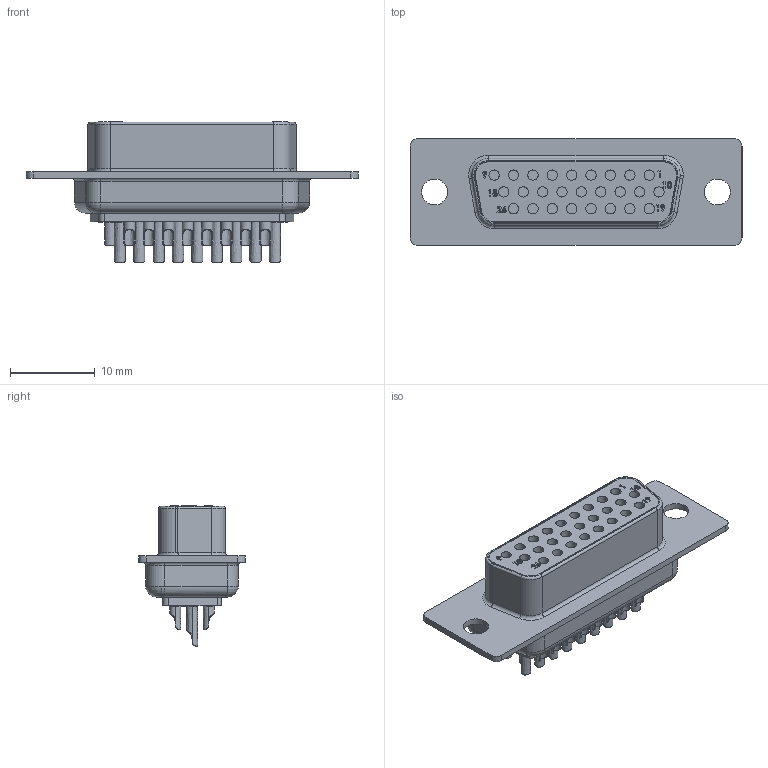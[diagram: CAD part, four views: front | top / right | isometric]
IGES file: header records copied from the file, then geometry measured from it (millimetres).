
Global section: file name: Filename.iges; native system: Open CASCADE 7.3; preprocessor: Open CASCADE IGES processor 7.3; date: 20201223.080450; units: millimetre
Bounding box: 39.14 x 12.6 x 16.54 mm (x, y, z)
Surface area: 3473.1 mm2 (no closed solid volume)
Topology: 0 solids, 0 shells, 733 faces, 3576 edges, 3576 vertices
Faces by surface type: revolution 322, plane 299, bspline 112
